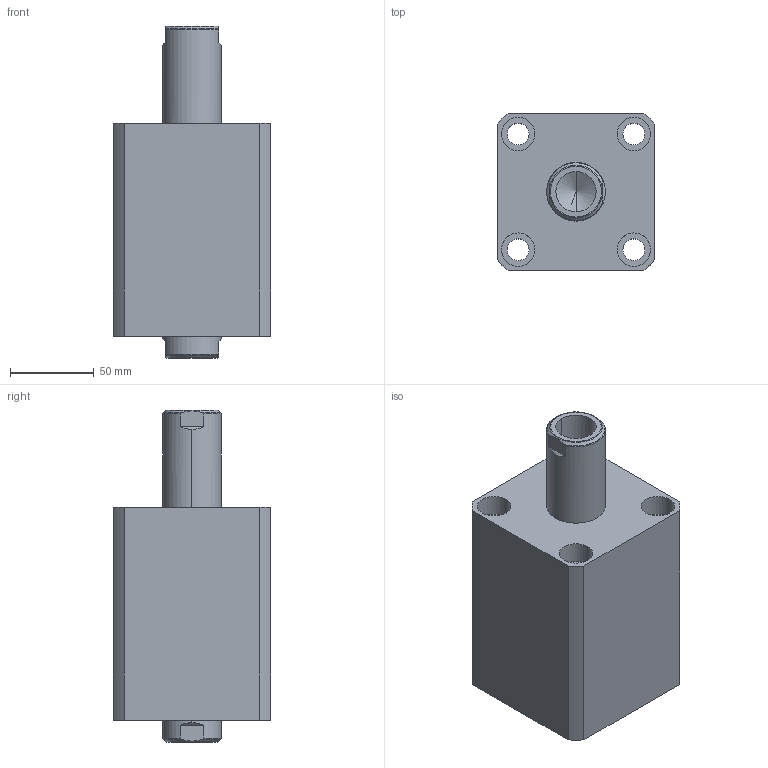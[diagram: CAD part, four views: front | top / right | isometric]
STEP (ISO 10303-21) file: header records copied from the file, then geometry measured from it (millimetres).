
FILE_DESCRIPTION (( 'STEP AP214' ), '1' );
FILE_NAME ('chtb-sw63x45n_asm.STEP', '2018-05-12T02:10:24', ( 'Windows' ), ( 'Microsoft' ), 'SwSTEP 2.0', 'SolidWorks 2015', '' );
FILE_SCHEMA (( 'AUTOMOTIVE_DESIGN' ));
Length unit declared in the file: millimetre
Products named in the file (4): CHTB-SW63X45NHSG; CHTB-SW63X45NBT; CHTB-63QG; chtb-sw63x45n_asm
Assembly tree (3 placements, depth 2):
  chtb-sw63x45n_asm
    CHTB-63QG
    CHTB-SW63X45NBT
    CHTB-SW63X45NHSG
Bounding box: 94 x 94 x 198 mm (x, y, z)
Volume: 970801.4 mm3; surface area: 161448.4 mm2
Topology: 3 solids, 3 shells, 184 faces, 515 edges, 349 vertices
Faces by surface type: cylinder 106, plane 38, cone 16, bspline 12, torus 12
Entity records: 18385 total; most frequent: CARTESIAN_POINT 13775, ORIENTED_EDGE 1014, DIRECTION 814, EDGE_CURVE 507, VERTEX_POINT 349, AXIS2_PLACEMENT_3D 331, EDGE_LOOP 220, ADVANCED_FACE 184
